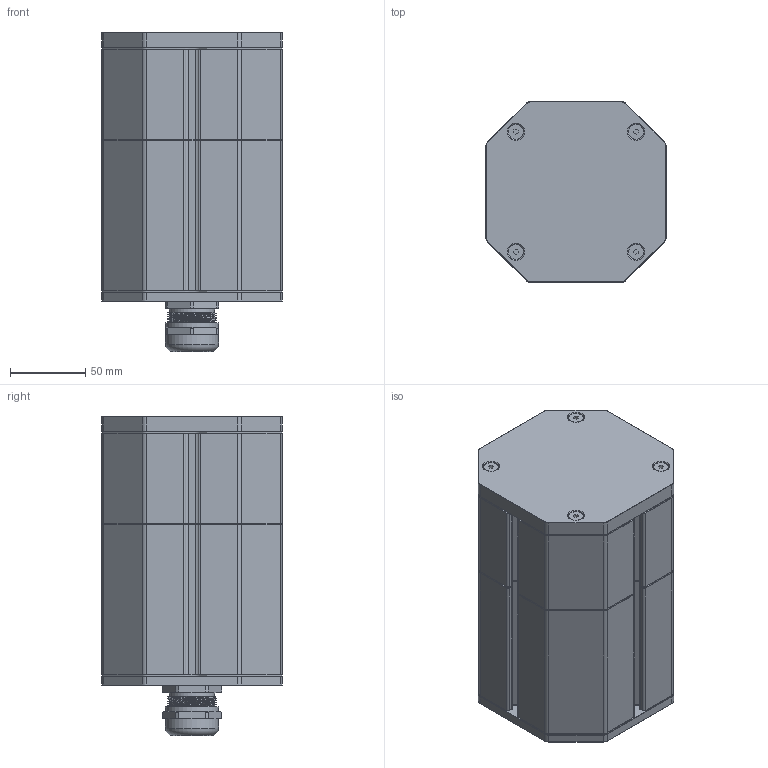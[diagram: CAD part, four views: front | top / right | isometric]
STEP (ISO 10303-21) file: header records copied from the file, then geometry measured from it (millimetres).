
FILE_DESCRIPTION(/* description */ (''),/* implementation_level */ '2;1');
FILE_NAME(/* name */ 'FG-CH87-060-100-F00-B01.stp',/* time_stamp */ '2026-04-14T15:41:07+02:00',/* author */ ('roman'),/* organization */ (''),/* preprocessor_version */ 'ST-DEVELOPER v20',/* originating_system */ 'Autodesk Inventor 2024',/* authorisation */ '');
FILE_SCHEMA (('AUTOMOTIVE_DESIGN { 1 0 10303 214 3 1 1 }'));
Length unit declared in the file: millimetre
Products named in the file (13): FG-CH87-060-100-F00-B01; SUB-CH87-MID-100-060; CH87-BDB-100; CH87-ROD-160; CH87-BDF-060; SUB-CH87-BCK-B01; CH87-CPB-RD; SKINTOP 32x1.5; Matice pruchodky M32x1,5; CH87-SL1; CH87-SL2; CH87-CPF-PMMA; DIN 7991 - M5x20
Assembly tree (23 placements, depth 3):
  FG-CH87-060-100-F00-B01
    SUB-CH87-MID-100-060
      CH87-BDB-100
      CH87-ROD-160  x4
      CH87-SL1
      CH87-BDF-060
    SUB-CH87-BCK-B01
      CH87-CPB-RD
      SKINTOP 32x1.5
      Matice pruchodky M32x1,5
    CH87-SL1
    DIN 7991 - M5x20  x8
    CH87-SL2
    CH87-CPF-PMMA
Bounding box: 120 x 120 x 212.4 mm (x, y, z)
Volume: 755668 mm3; surface area: 395341.7 mm2
Topology: 21 solids, 21 shells, 1008 faces, 2722 edges, 1759 vertices
Faces by surface type: plane 452, cylinder 449, cone 95, torus 9, bspline 3
Full cylindrical faces by diameter (mm): 4 x4, 5 x8, 5.5 x4, 6 x8, 6.8 x20, 8.5 x4, 10 x8, 21.4 x1, 25 x1, 30 x2, 30.376 x1, 32 x6, 32.2 x1, 32.5 x1, 35.3 x2, 87 x5
Entity records: 25779 total; most frequent: CARTESIAN_POINT 5425, DIRECTION 4336, ORIENTED_EDGE 4078, EDGE_CURVE 2039, AXIS2_PLACEMENT_3D 1575, VERTEX_POINT 1322, LINE 1186, VECTOR 1186
